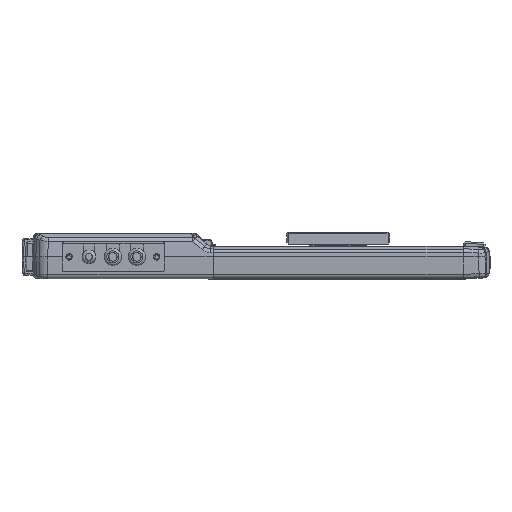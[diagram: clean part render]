
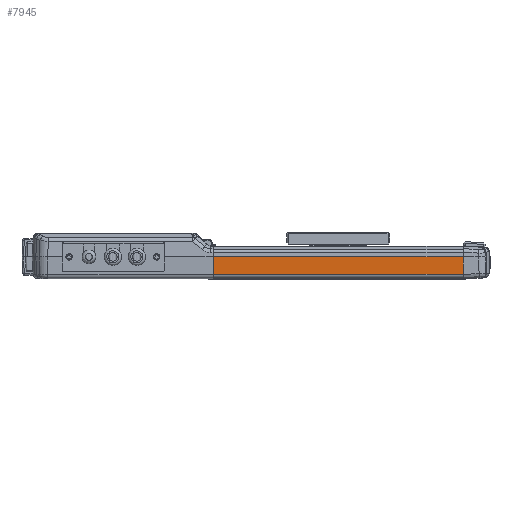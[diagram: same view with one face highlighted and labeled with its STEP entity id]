
A CAD part, front view. The second image highlights one B-rep face of the part: STEP entity #7945.
In plain terms, the highlighted planar face has unit normal (0, -0.999, -0.052).
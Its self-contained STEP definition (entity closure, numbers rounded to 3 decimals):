
#6450=CARTESIAN_POINT('',(73.8,-39.0,13.));
#6451=VERTEX_POINT('',#6450);
#6458=CARTESIAN_POINT('',(73.8,-38.469,2.869));
#6459=VERTEX_POINT('',#6458);
#6460=CARTESIAN_POINT('',(73.8,-39.0,13.));
#6461=DIRECTION('',(0.0,0.052,-0.999));
#6462=VECTOR('',#6461,10.145);
#6463=LINE('',#6460,#6462);
#6464=EDGE_CURVE('',#6451,#6459,#6463,.T.);
#7140=CARTESIAN_POINT('',(-71.8,-38.469,2.869));
#7141=VERTEX_POINT('',#7140);
#7149=CARTESIAN_POINT('',(-71.8,-39.0,13.));
#7150=VERTEX_POINT('',#7149);
#7151=CARTESIAN_POINT('',(-71.8,-38.469,2.869));
#7152=DIRECTION('',(0.,-0.052,0.999));
#7153=VECTOR('',#7152,10.145);
#7154=LINE('',#7151,#7153);
#7155=EDGE_CURVE('',#7141,#7150,#7154,.T.);
#7890=CARTESIAN_POINT('',(73.8,-38.469,2.869));
#7891=DIRECTION('',(-1.0,0.0,0.0));
#7892=VECTOR('',#7891,145.6);
#7893=LINE('',#7890,#7892);
#7894=EDGE_CURVE('',#6459,#7141,#7893,.T.);
#7924=CARTESIAN_POINT('',(-71.8,-39.0,13.));
#7925=DIRECTION('',(1.0,0.0,0.0));
#7926=VECTOR('',#7925,145.6);
#7927=LINE('',#7924,#7926);
#7928=EDGE_CURVE('',#7150,#6451,#7927,.T.);
#7934=CARTESIAN_POINT('',(73.8,-38.345,0.5));
#7935=DIRECTION('',(0.,0.999,0.052));
#7936=DIRECTION('',(0.,0.052,-0.999));
#7937=AXIS2_PLACEMENT_3D('',#7934,#7935,#7936);
#7938=PLANE('',#7937);
#7939=ORIENTED_EDGE('',*,*,#7894,.F.);
#7940=ORIENTED_EDGE('',*,*,#6464,.F.);
#7941=ORIENTED_EDGE('',*,*,#7928,.F.);
#7942=ORIENTED_EDGE('',*,*,#7155,.F.);
#7943=EDGE_LOOP('',(#7939,#7940,#7941,#7942));
#7944=FACE_OUTER_BOUND('',#7943,.T.);
#7945=ADVANCED_FACE('',(#7944),#7938,.F.);
